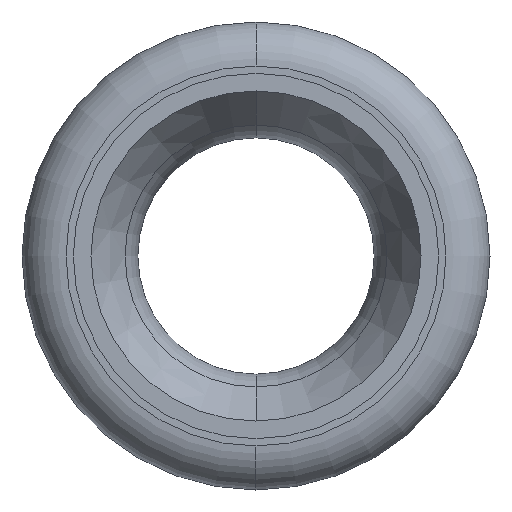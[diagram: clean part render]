
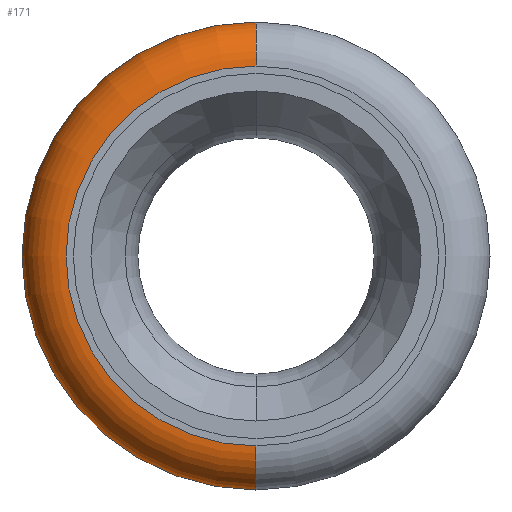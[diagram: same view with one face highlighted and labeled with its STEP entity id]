
A CAD part, left-side view. The second image highlights one B-rep face of the part: STEP entity #171.
In plain terms, the highlighted toroidal (fillet/blend) face has major radius 12.95 mm and minor radius 3 mm.
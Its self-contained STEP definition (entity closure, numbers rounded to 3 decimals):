
#171=ADVANCED_FACE('',(#388),#389,.T.);
#388=FACE_OUTER_BOUND('',#668,.T.);
#389=TOROIDAL_SURFACE('',#669,12.95,3.);
#668=EDGE_LOOP('',(#1097,#1098,#1099,#1100));
#669=AXIS2_PLACEMENT_3D('',#1101,#1102,#1103);
#1097=ORIENTED_EDGE('',*,*,#1571,.T.);
#1098=ORIENTED_EDGE('',*,*,#1655,.F.);
#1099=ORIENTED_EDGE('',*,*,#1656,.F.);
#1100=ORIENTED_EDGE('',*,*,#1657,.F.);
#1101=CARTESIAN_POINT('',(8.,0.0,0.));
#1102=DIRECTION('',(-1.0,0.0,0.));
#1103=DIRECTION('',(0.,0.0,1.0));
#1571=EDGE_CURVE('',#1812,#1811,#1856,.T.);
#1655=EDGE_CURVE('',#1988,#1811,#1989,.T.);
#1656=EDGE_CURVE('',#1990,#1988,#1991,.T.);
#1657=EDGE_CURVE('',#1812,#1990,#1992,.T.);
#1811=VERTEX_POINT('',#2168);
#1812=VERTEX_POINT('',#2169);
#1856=CIRCLE('',#2213,15.95);
#1988=VERTEX_POINT('',#2363);
#1989=CIRCLE('',#2364,3.);
#1990=VERTEX_POINT('',#2365);
#1991=CIRCLE('',#2366,12.95);
#1992=CIRCLE('',#2367,3.);
#2168=CARTESIAN_POINT('',(8.,0.,-15.95));
#2169=CARTESIAN_POINT('',(8.,0.,15.95));
#2213=AXIS2_PLACEMENT_3D('',#2630,#2631,#2632);
#2363=CARTESIAN_POINT('',(5.,0.,-12.95));
#2364=AXIS2_PLACEMENT_3D('',#2786,#2787,#2788);
#2365=CARTESIAN_POINT('',(5.,0.,12.95));
#2366=AXIS2_PLACEMENT_3D('',#2789,#2790,#2791);
#2367=AXIS2_PLACEMENT_3D('',#2792,#2793,#2794);
#2630=CARTESIAN_POINT('',(8.,0.0,0.));
#2631=DIRECTION('',(-1.0,0.0,0.));
#2632=DIRECTION('',(0.,0.0,1.0));
#2786=CARTESIAN_POINT('',(8.,0.,-12.95));
#2787=DIRECTION('',(0.,-1.0,0.));
#2788=DIRECTION('',(0.,0.,-1.0));
#2789=CARTESIAN_POINT('',(5.,0.0,0.));
#2790=DIRECTION('',(-1.0,0.0,0.));
#2791=DIRECTION('',(0.,0.0,-1.0));
#2792=CARTESIAN_POINT('',(8.,0.,12.95));
#2793=DIRECTION('',(0.,-1.0,0.));
#2794=DIRECTION('',(0.,0.,1.0));
